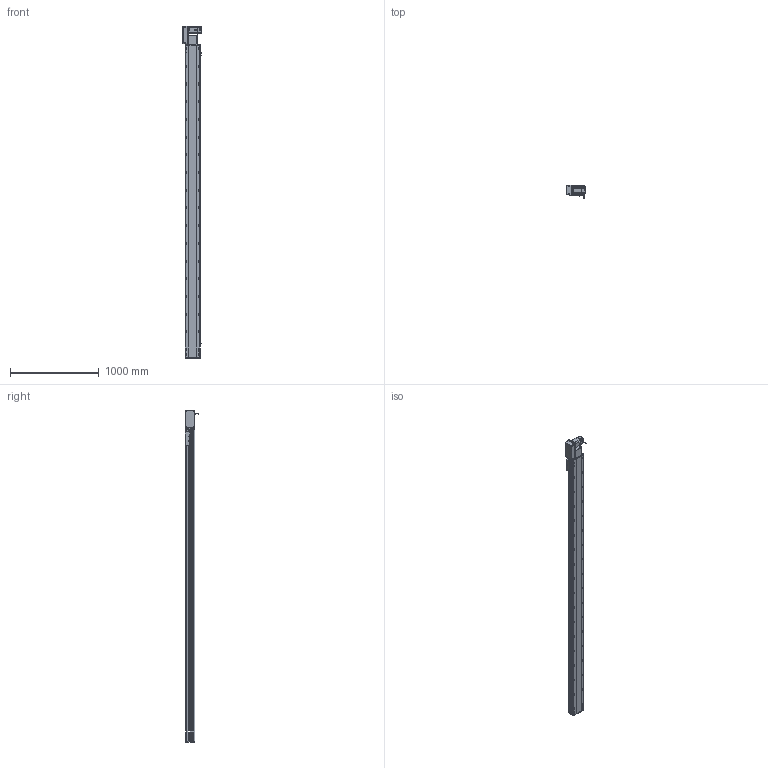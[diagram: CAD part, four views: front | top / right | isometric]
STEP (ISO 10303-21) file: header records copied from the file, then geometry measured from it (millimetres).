
FILE_DESCRIPTION (( 'STEP AP214' ), '1' );
FILE_NAME ('RTB17S-XX-3250-L-M75-C4.STEP', '2025-12-12T00:26:17', ( '' ), ( '' ), 'SwSTEP 2.0', 'SolidWorks 2018', '' );
FILE_SCHEMA (( 'AUTOMOTIVE_DESIGN' ));
Length unit declared in the file: millimetre
Products named in the file (15): RTB17S-XX-3250-L-M75-C4; RTB17S-L-007奻裔^RTB17S-XX-XX-L-M75-C4; RTB22S-GY-018P^RTB17S-L-々湍釱蚾饜-750W_RTB17S-XX-XX-L-M75-C4; RTB22S-GY-005P^RTB17S-L-々湍釱蚾饜-750W_RTB17S-XX-XX-L-M75-C4; RTB22S-GY-008-M75--萇儂啣^RTB17S-L-々湍釱蚾饜-750W_RTB17S-XX-XX-L-M75-C4; EE672^RTB17S-XX-XX-L-M75-C4; 750W萇儂^RTB17S-XX-XX-L-M75-C4; RTB22S-GY-017P^RTB17S-L-々湍釱蚾饜-750W_RTB17S-XX-XX-L-M75-C4; RTB17S-L-々湍釱蚾饜-750W^RTB17S-XX-XX-L-M75-C4; RTH13-BL-012覜茼え俋离^RTB17S-賑釱_RTB17S-XX-XX-L-M75-C4; RTB17S-賑釱^RTB17S-XX-XX-L-M75-C4; RTB17-R-011菁釱^RTB17S-XX-XX-L-M75-C4; RMP17S-L-014-T20-P75--々湍釱^RTB17S-L-々湍釱蚾饜-750W_RTB17S-XX-XX-L-M75-C4; RTB17S-L-004-賑釱^RTB17S-賑釱_RTB17S-XX-XX-L-M75-C4; RTB17S-L-001-耜醱啣^RTB17S-XX-XX-L-M75-C4
Assembly tree (17 placements, depth 3):
  RTB17S-XX-3250-L-M75-C4
    RTB17-R-011菁釱^RTB17S-XX-XX-L-M75-C4
    EE672^RTB17S-XX-XX-L-M75-C4  x3
    RTB17S-L-001-耜醱啣^RTB17S-XX-XX-L-M75-C4
    RTB17S-賑釱^RTB17S-XX-XX-L-M75-C4
      RTB17S-L-004-賑釱^RTB17S-賑釱_RTB17S-XX-XX-L-M75-C4
      RTH13-BL-012覜茼え俋离^RTB17S-賑釱_RTB17S-XX-XX-L-M75-C4
    RTB17S-L-007奻裔^RTB17S-XX-XX-L-M75-C4
    750W萇儂^RTB17S-XX-XX-L-M75-C4
    RTB17S-L-々湍釱蚾饜-750W^RTB17S-XX-XX-L-M75-C4
      RMP17S-L-014-T20-P75--々湍釱^RTB17S-L-々湍釱蚾饜-750W_RTB17S-XX-XX-L-M75-C4
      RTB22S-GY-005P^RTB17S-L-々湍釱蚾饜-750W_RTB17S-XX-XX-L-M75-C4
      RTB22S-GY-017P^RTB17S-L-々湍釱蚾饜-750W_RTB17S-XX-XX-L-M75-C4  x2
      RTB22S-GY-008-M75--萇儂啣^RTB17S-L-々湍釱蚾饜-750W_RTB17S-XX-XX-L-M75-C4
      RTB22S-GY-018P^RTB17S-L-々湍釱蚾饜-750W_RTB17S-XX-XX-L-M75-C4
Bounding box: 210.4 x 152.7 x 3749 mm (x, y, z)
Volume: 26261004.2 mm3; surface area: 4836458.4 mm2
Topology: 17 solids, 17 shells, 2281 faces, 6430 edges, 4166 vertices
Faces by surface type: plane 994, cylinder 871, bspline 294, cone 110, sphere 8, torus 4
Entity records: 67318 total; most frequent: CARTESIAN_POINT 20094, ORIENTED_EDGE 9704, DIRECTION 8942, EDGE_CURVE 4852, AXIS2_PLACEMENT_3D 3186, VERTEX_POINT 3170, LINE 2570, VECTOR 2570
